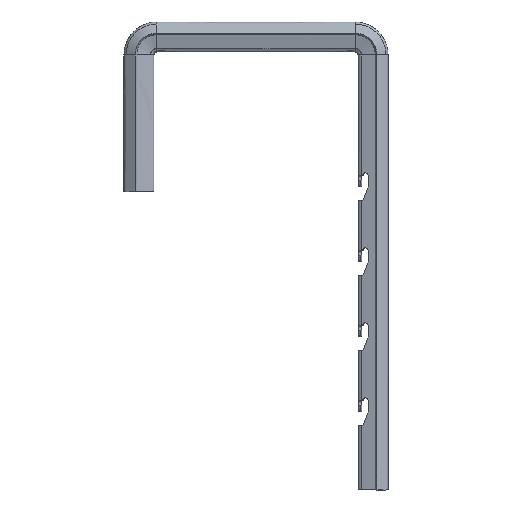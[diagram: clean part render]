
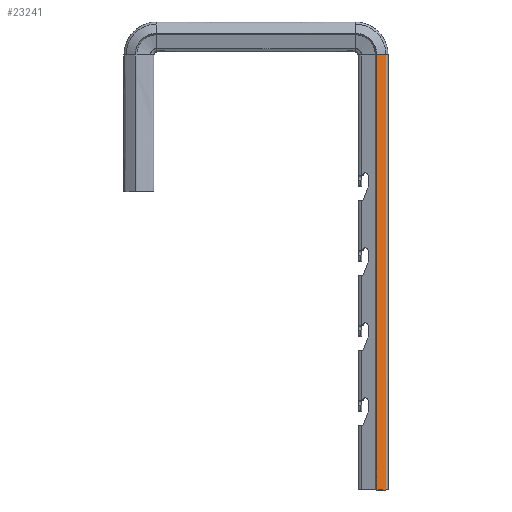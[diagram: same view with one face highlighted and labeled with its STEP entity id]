
A CAD part, left-side view. The second image highlights one B-rep face of the part: STEP entity #23241.
In plain terms, the highlighted planar face has unit normal (-0.832, -0.555, 0).
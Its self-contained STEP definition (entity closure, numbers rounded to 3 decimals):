
#45 = CARTESIAN_POINT ( 'NONE',  ( -26., -12.606, 290. ) ) ;
#233 = FACE_OUTER_BOUND ( 'NONE', #7299, .T. ) ;
#2407 = EDGE_CURVE ( 'NONE', #42517, #5267, #23098, .T. ) ;
#4055 = DIRECTION ( 'NONE',  ( 0.555, -0.832, 0. ) ) ;
#5267 = VERTEX_POINT ( 'NONE', #6495 ) ;
#6495 = CARTESIAN_POINT ( 'NONE',  ( -26., -12.606, 0. ) ) ;
#7299 = EDGE_LOOP ( 'NONE', ( #20035, #11068, #46025, #34879 ) ) ;
#11011 = AXIS2_PLACEMENT_3D ( 'NONE', #23435, #23678, #4055 ) ;
#11022 = LINE ( 'NONE', #45, #43281 ) ;
#11068 = ORIENTED_EDGE ( 'NONE', *, *, #41868, .F. ) ;
#11325 = VECTOR ( 'NONE', #50320, 1000. ) ;
#14381 = EDGE_CURVE ( 'NONE', #26249, #5267, #27354, .T. ) ;
#16368 = VECTOR ( 'NONE', #39098, 1000. ) ;
#17215 = VERTEX_POINT ( 'NONE', #45241 ) ;
#18723 = CARTESIAN_POINT ( 'NONE',  ( -26., -12.606, 290. ) ) ;
#20035 = ORIENTED_EDGE ( 'NONE', *, *, #2407, .F. ) ;
#20504 = CARTESIAN_POINT ( 'NONE',  ( -21.961, -18.664, 290. ) ) ;
#23098 = LINE ( 'NONE', #26660, #11325 ) ;
#23241 = ADVANCED_FACE ( 'NONE', ( #233 ), #24178, .T. ) ;
#23435 = CARTESIAN_POINT ( 'NONE',  ( -26., -12.606, 290. ) ) ;
#23569 = LINE ( 'NONE', #20504, #16368 ) ;
#23678 = DIRECTION ( 'NONE',  ( -0.832, -0.555, 0. ) ) ;
#24178 = PLANE ( 'NONE',  #11011 ) ;
#26249 = VERTEX_POINT ( 'NONE', #45658 ) ;
#26660 = CARTESIAN_POINT ( 'NONE',  ( -26., -12.606, 0. ) ) ;
#27354 = LINE ( 'NONE', #18723, #39092 ) ;
#29476 = CARTESIAN_POINT ( 'NONE',  ( -21.961, -18.664, 0. ) ) ;
#29985 = EDGE_CURVE ( 'NONE', #17215, #26249, #11022, .T. ) ;
#30436 = DIRECTION ( 'NONE',  ( 0., 0., -1. ) ) ;
#34879 = ORIENTED_EDGE ( 'NONE', *, *, #14381, .T. ) ;
#39092 = VECTOR ( 'NONE', #30436, 1000. ) ;
#39098 = DIRECTION ( 'NONE',  ( 0., 0., -1. ) ) ;
#41868 = EDGE_CURVE ( 'NONE', #17215, #42517, #23569, .T. ) ;
#42517 = VERTEX_POINT ( 'NONE', #29476 ) ;
#42591 = DIRECTION ( 'NONE',  ( -0.555, 0.832, 0. ) ) ;
#43281 = VECTOR ( 'NONE', #42591, 1000. ) ;
#45241 = CARTESIAN_POINT ( 'NONE',  ( -21.972, -18.648, 290. ) ) ;
#45658 = CARTESIAN_POINT ( 'NONE',  ( -26., -12.606, 290. ) ) ;
#46025 = ORIENTED_EDGE ( 'NONE', *, *, #29985, .T. ) ;
#50320 = DIRECTION ( 'NONE',  ( -0.555, 0.832, 0. ) ) ;
